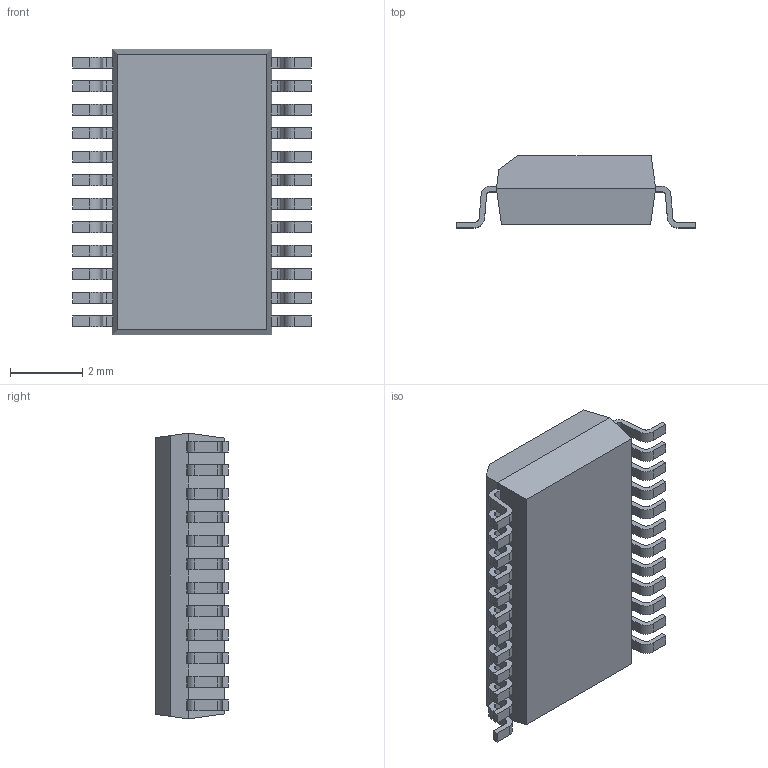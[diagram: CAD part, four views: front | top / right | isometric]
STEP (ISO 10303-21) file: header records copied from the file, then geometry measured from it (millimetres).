
FILE_DESCRIPTION (( 'STEP AP214' ), '1' );
FILE_NAME ('SOP65P640X200-24_MO-152.AD.STEP', '2014-10-30T11:22:33', ( 'Tester2' ), ( '' ), 'SwSTEP 2.0', 'SolidWorks 2012', '' );
FILE_SCHEMA (( 'AUTOMOTIVE_DESIGN' ));
Length unit declared in the file: millimetre
Products named in the file (1): SOP65P640X200-24_MO-152.AD
Bounding box: 6.6 x 2 x 7.9 mm (x, y, z)
Volume: 64.3 mm3; surface area: 148.2 mm2
Topology: 1 solids, 1 shells, 326 faces, 965 edges, 642 vertices
Faces by surface type: plane 228, cylinder 98
Entity records: 14352 total; most frequent: CARTESIAN_POINT 1934, ORIENTED_EDGE 1930, DIRECTION 1815, EDGE_CURVE 965, LINE 769, VECTOR 769, VERTEX_POINT 642, AXIS2_PLACEMENT_3D 523
